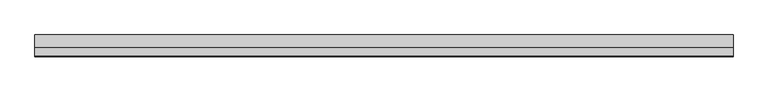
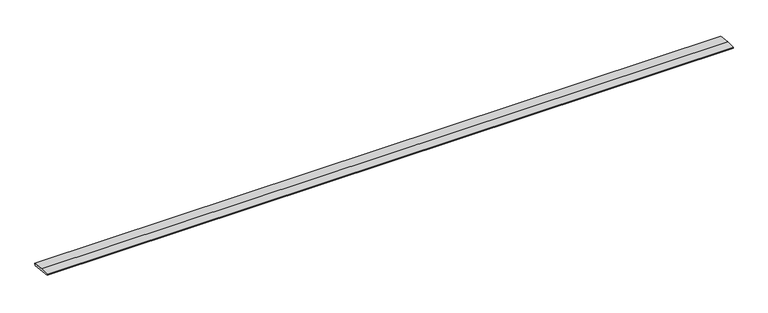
"""IFC4 building model written with IfcOpenShell, lengths in millimetres: beam geometry, weatherboad : weatherboad."""

from ifc_helpers import new_model, si_unit, frame, origin, place, context, project, spatial, polyline, outline, extrude, source, transform, mapped, element, save


def beam_33133b0b(model_context):
    return source(origin(), model_context, "Body", "SweptSolid", [
        extrude(outline(polyline([(0.0, -9.143159), (1.1226388, 0.0), (79.0749747, 0.0), (180.9387048, -12.5072934), (178.6231873, -31.3656703), (0.0, -9.143159)])), frame((-2913.3084789, 0.0, 0.0), z_axis=(1.0, 0.0, 0.0), x_axis=(0.0, 1.0, 0.0)), (0.0, 0.0, 1.0), 5826.6169577),
    ])


if __name__ == "__main__":
    model = new_model("IFC4")
    model_context = context("Model", 3, world=origin())
    ifc_project = project(units=[si_unit("LENGTHUNIT", "METRE", prefix="MILLI")], contexts=[model_context])
    site = spatial("IfcSite", under=ifc_project)
    building = spatial("IfcBuilding", under=site)
    placement = place(None, origin())
    beam_shape = beam_33133b0b(model_context)
    element("IfcBeam", 1, ObjectType="weatherboad : weatherboad", at=placement, inside=building, context=model_context, shape_type="MappedRepresentation", body=[
        mapped(beam_shape, transform((0.0, 0.0, 0.0), x_axis=(1.0, 0.0, 0.0), y_axis=(0.0, 1.0, 0.0), z_axis=(0.0, 0.0, 1.0))),
    ])
    save(model, "model.ifc")
